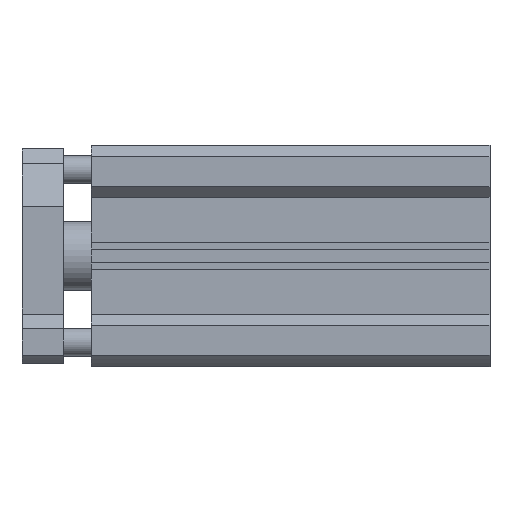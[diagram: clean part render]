
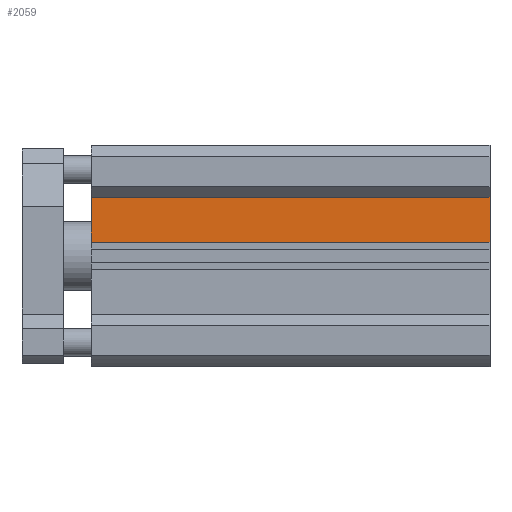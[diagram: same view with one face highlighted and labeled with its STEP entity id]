
A CAD part, front view. The second image highlights one B-rep face of the part: STEP entity #2059.
In plain terms, the highlighted planar face has unit normal (0, -1, 0).
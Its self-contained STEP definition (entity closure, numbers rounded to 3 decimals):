
#77 = LINE ( 'NONE', #2107, #2545 ) ;
#238 = CARTESIAN_POINT ( 'NONE',  ( 115.5, -29., 4. ) ) ;
#290 = VERTEX_POINT ( 'NONE', #4224 ) ;
#483 = DIRECTION ( 'NONE',  ( 1., 0., 0. ) ) ;
#506 = DIRECTION ( 'NONE',  ( 0., 0., -1. ) ) ;
#644 = LINE ( 'NONE', #1809, #1502 ) ;
#822 = EDGE_CURVE ( 'NONE', #290, #2187, #1364, .T. ) ;
#868 = EDGE_LOOP ( 'NONE', ( #4157, #3179, #1285, #4050 ) ) ;
#1285 = ORIENTED_EDGE ( 'NONE', *, *, #822, .F. ) ;
#1364 = LINE ( 'NONE', #2920, #2369 ) ;
#1502 = VECTOR ( 'NONE', #4965, 1000. ) ;
#1629 = VERTEX_POINT ( 'NONE', #3691 ) ;
#1728 = PLANE ( 'NONE',  #4105 ) ;
#1730 = DIRECTION ( 'NONE',  ( -1., 0., 0. ) ) ;
#1809 = CARTESIAN_POINT ( 'NONE',  ( 115.5, -29., 17. ) ) ;
#2031 = LINE ( 'NONE', #2112, #3390 ) ;
#2059 = ADVANCED_FACE ( 'NONE', ( #4048 ), #1728, .F. ) ;
#2080 = DIRECTION ( 'NONE',  ( 0., 0., -1. ) ) ;
#2107 = CARTESIAN_POINT ( 'NONE',  ( 0., -29., 17. ) ) ;
#2112 = CARTESIAN_POINT ( 'NONE',  ( 115.5, -29., 4. ) ) ;
#2187 = VERTEX_POINT ( 'NONE', #238 ) ;
#2369 = VECTOR ( 'NONE', #2080, 1000. ) ;
#2545 = VECTOR ( 'NONE', #506, 1000. ) ;
#2920 = CARTESIAN_POINT ( 'NONE',  ( 115.5, -29., 17. ) ) ;
#3179 = ORIENTED_EDGE ( 'NONE', *, *, #3639, .F. ) ;
#3390 = VECTOR ( 'NONE', #1730, 1000. ) ;
#3639 = EDGE_CURVE ( 'NONE', #2187, #3909, #2031, .T. ) ;
#3691 = CARTESIAN_POINT ( 'NONE',  ( 0., -29., 17. ) ) ;
#3714 = EDGE_CURVE ( 'NONE', #290, #1629, #644, .T. ) ;
#3872 = CARTESIAN_POINT ( 'NONE',  ( 0., -29., 4. ) ) ;
#3909 = VERTEX_POINT ( 'NONE', #3872 ) ;
#4048 = FACE_OUTER_BOUND ( 'NONE', #868, .T. ) ;
#4050 = ORIENTED_EDGE ( 'NONE', *, *, #3714, .T. ) ;
#4060 = EDGE_CURVE ( 'NONE', #1629, #3909, #77, .T. ) ;
#4105 = AXIS2_PLACEMENT_3D ( 'NONE', #4804, #4351, #483 ) ;
#4157 = ORIENTED_EDGE ( 'NONE', *, *, #4060, .T. ) ;
#4224 = CARTESIAN_POINT ( 'NONE',  ( 115.5, -29., 17. ) ) ;
#4351 = DIRECTION ( 'NONE',  ( 0., 1., 0. ) ) ;
#4804 = CARTESIAN_POINT ( 'NONE',  ( 115.5, -29., 17. ) ) ;
#4965 = DIRECTION ( 'NONE',  ( -1., 0., 0. ) ) ;
